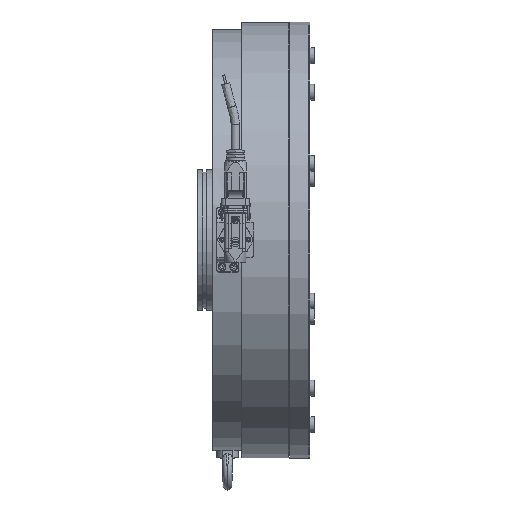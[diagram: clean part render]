
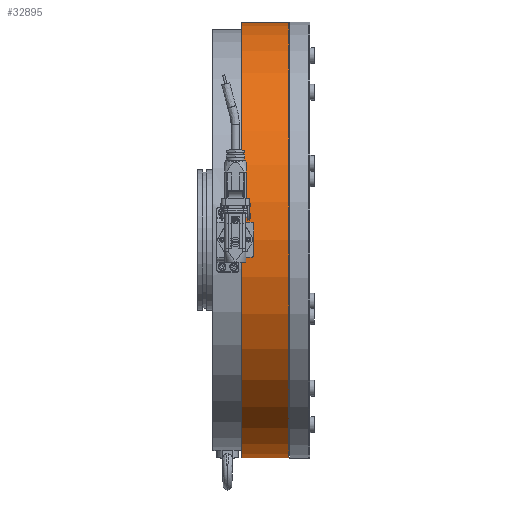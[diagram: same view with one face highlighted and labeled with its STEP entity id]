
A CAD part, top view. The second image highlights one B-rep face of the part: STEP entity #32895.
In plain terms, the highlighted cylindrical face has radius 248 mm (diameter 496 mm), a full revolution.
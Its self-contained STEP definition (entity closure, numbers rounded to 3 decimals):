
#864=LINE('',#49765,#3627);
#3627=VECTOR('',#40495,248.);
#6274=CYLINDRICAL_SURFACE('',#35465,248.);
#7364=FACE_OUTER_BOUND('',#9272,.T.);
#9272=EDGE_LOOP('',(#22781,#22782,#22783,#22784,#22785,#22786));
#11537=CIRCLE('',#35427,248.);
#11538=CIRCLE('',#35428,248.);
#11565=CIRCLE('',#35463,248.);
#11566=CIRCLE('',#35464,248.);
#13244=VERTEX_POINT('',#49692);
#13245=VERTEX_POINT('',#49693);
#13272=VERTEX_POINT('',#49760);
#13273=VERTEX_POINT('',#49761);
#16817=EDGE_CURVE('',#13244,#13245,#11537,.T.);
#16818=EDGE_CURVE('',#13245,#13244,#11538,.T.);
#16849=EDGE_CURVE('',#13272,#13273,#11565,.T.);
#16850=EDGE_CURVE('',#13273,#13272,#11566,.T.);
#16851=EDGE_CURVE('',#13245,#13273,#864,.T.);
#22781=ORIENTED_EDGE('',*,*,#16817,.F.);
#22782=ORIENTED_EDGE('',*,*,#16818,.F.);
#22783=ORIENTED_EDGE('',*,*,#16851,.T.);
#22784=ORIENTED_EDGE('',*,*,#16850,.T.);
#22785=ORIENTED_EDGE('',*,*,#16849,.T.);
#22786=ORIENTED_EDGE('',*,*,#16851,.F.);
#32895=ADVANCED_FACE('',(#7364),#6274,.T.);
#35427=AXIS2_PLACEMENT_3D('',#49694,#40413,#40414);
#35428=AXIS2_PLACEMENT_3D('',#49695,#40415,#40416);
#35463=AXIS2_PLACEMENT_3D('',#49762,#40489,#40490);
#35464=AXIS2_PLACEMENT_3D('',#49763,#40491,#40492);
#35465=AXIS2_PLACEMENT_3D('',#49764,#40493,#40494);
#40413=DIRECTION('center_axis',(1.,0.,0.));
#40414=DIRECTION('ref_axis',(0.,-1.,0.));
#40415=DIRECTION('center_axis',(1.,0.,0.));
#40416=DIRECTION('ref_axis',(0.,-1.,0.));
#40489=DIRECTION('center_axis',(1.,0.,0.));
#40490=DIRECTION('ref_axis',(0.,-1.,0.));
#40491=DIRECTION('center_axis',(1.,0.,0.));
#40492=DIRECTION('ref_axis',(0.,-1.,0.));
#40493=DIRECTION('center_axis',(1.,0.,0.));
#40494=DIRECTION('ref_axis',(0.,-1.,0.));
#40495=DIRECTION('',(-1.,0.,0.));
#49692=CARTESIAN_POINT('',(55.5,-248.,0.));
#49693=CARTESIAN_POINT('',(55.5,248.,0.));
#49694=CARTESIAN_POINT('Origin',(55.5,0.,
0.));
#49695=CARTESIAN_POINT('Origin',(55.5,0.,
0.));
#49760=CARTESIAN_POINT('',(1.5,-248.,0.));
#49761=CARTESIAN_POINT('',(1.5,248.,0.));
#49762=CARTESIAN_POINT('Origin',(1.5,0.,0.));
#49763=CARTESIAN_POINT('Origin',(1.5,0.,0.));
#49764=CARTESIAN_POINT('Origin',(28.5,0.,0.));
#49765=CARTESIAN_POINT('',(28.5,248.,0.));
